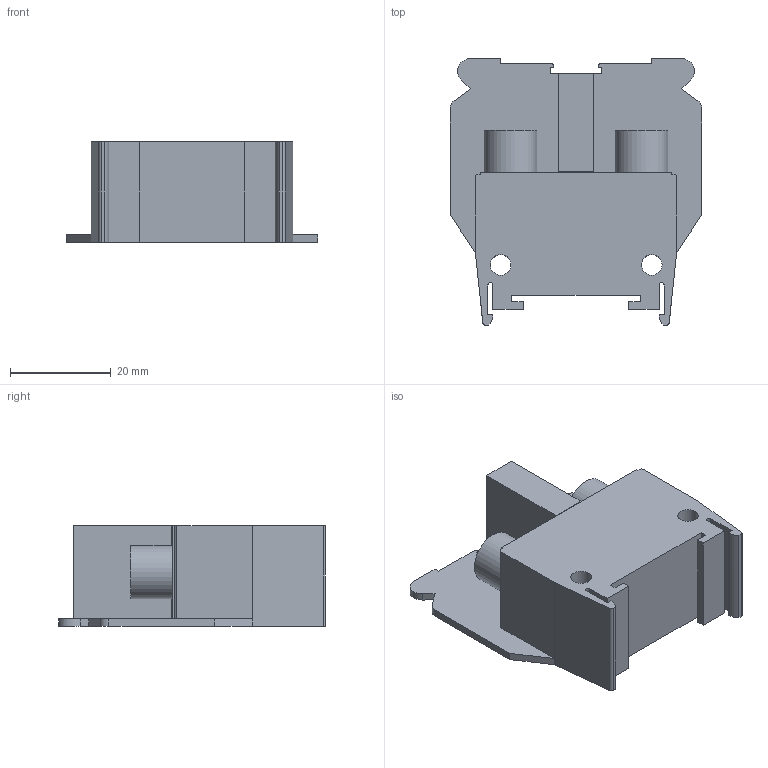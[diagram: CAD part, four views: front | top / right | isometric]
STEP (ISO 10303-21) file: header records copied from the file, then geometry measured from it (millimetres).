
FILE_DESCRIPTION(/* description */ (''),/* implementation_level */ '2;1');
FILE_NAME(/* name */ 'C:\Users\USERCADG105.FUJIDK\Desktop\2310600(TX-22)HP 3D.stp',/* time_stamp */ '2024-12-02T16:42:45+09:00',/* author */ ('usercadg105'),/* organization */ (''),/* preprocessor_version */ 'ST-DEVELOPER v19',/* originating_system */ 'Autodesk Inventor 2023',/* authorisation */ '');
FILE_SCHEMA (('CONFIG_CONTROL_DESIGN'));
Length unit declared in the file: millimetre
Products named in the file (1): 2310600(TX-22)HP 3D
Bounding box: 50 x 53 x 20 mm (x, y, z)
Volume: 25350.9 mm3; surface area: 10058.9 mm2
Topology: 1 solids, 1 shells, 74 faces, 208 edges, 138 vertices
Faces by surface type: plane 56, cylinder 18
Full cylindrical faces by diameter (mm): 4.1 x2, 10.5 x2
Entity records: 2423 total; most frequent: CARTESIAN_POINT 421, ORIENTED_EDGE 416, DIRECTION 394, EDGE_CURVE 208, LINE 172, VECTOR 172, VERTEX_POINT 138, AXIS2_PLACEMENT_3D 111
